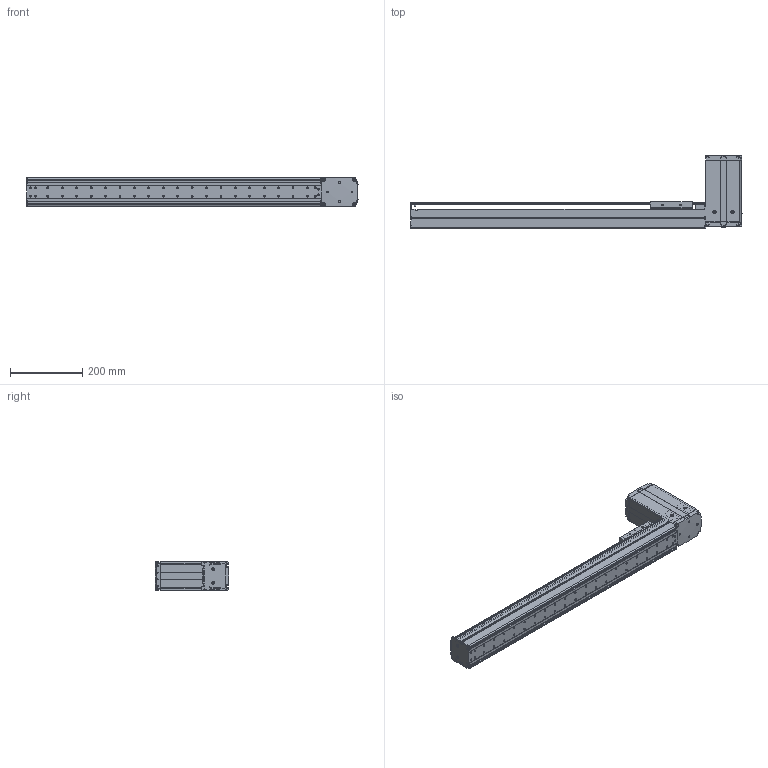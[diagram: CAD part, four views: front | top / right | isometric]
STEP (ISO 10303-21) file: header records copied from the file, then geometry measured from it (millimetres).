
FILE_DESCRIPTION((''),'2;1');
FILE_NAME('BE10_-BT-M_N-60_IGS_PRT','2017-06-18T',(' '),(''),'PRO/ENGINEER BY PARAMETRIC TECHNOLOGY CORPORATION, 2015030','PRO/ENGINEER BY PARAMETRIC TECHNOLOGY CORPORATION, 2015030','');
FILE_SCHEMA(('CONFIG_CONTROL_DESIGN'));
Products named in the file (1): BE10_-BT-M_N-60_IGS_PRT
Bounding box: 920.8 x 204.72 x 78 mm (x, y, z)
Volume: 1226001.6 mm3; surface area: 867093.3 mm2
Topology: 3 solids, 132 shells, 2053 faces, 5601 edges, 3681 vertices
Faces by surface type: plane 984, cylinder 898, cone 111, sphere 30, torus 27, bspline 3
Entity records: 66665 total; most frequent: CARTESIAN_POINT 13617, DIRECTION 11257, ORIENTED_EDGE 10638, EDGE_CURVE 5539, AXIS2_PLACEMENT_3D 4022, VERTEX_POINT 3681, VECTOR 3213, LINE 3213
